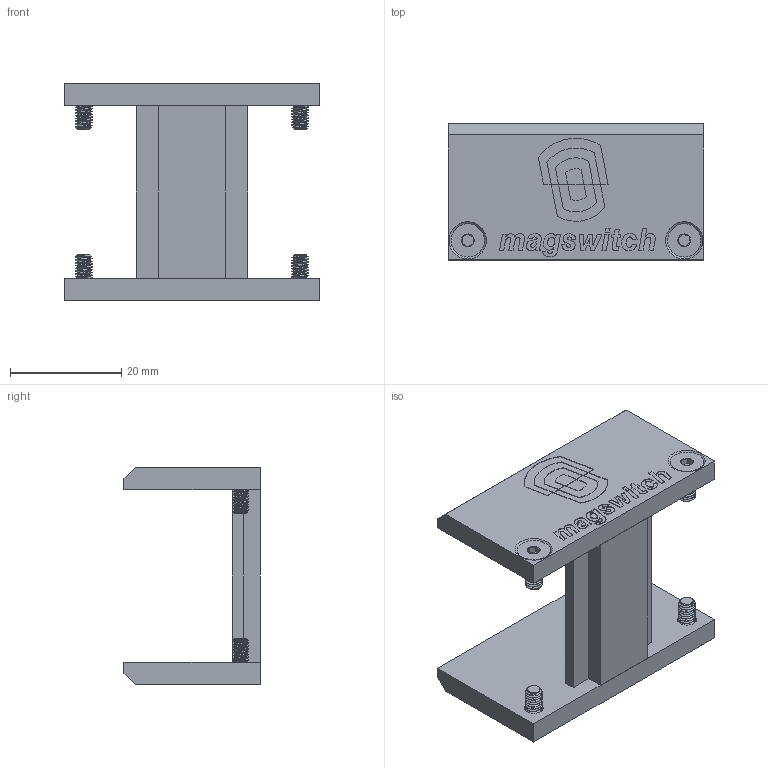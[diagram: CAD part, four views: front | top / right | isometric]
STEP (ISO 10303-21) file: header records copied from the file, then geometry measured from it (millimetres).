
FILE_DESCRIPTION (( 'STEP AP214' ), '1' );
FILE_NAME ('88001423_p.STEP', '2022-10-24T23:01:40', ( '' ), ( '' ), 'SwSTEP 2.0', 'SolidWorks 2018', '' );
FILE_SCHEMA (( 'AUTOMOTIVE_DESIGN' ));
Length unit declared in the file: millimetre
Products named in the file (2): 88001423_p
Bounding box: 46 x 24.5 x 39 mm (x, y, z)
Surface area: 7716.4 mm2 (no closed solid volume)
Topology: 0 solids, 11 shells, 552 faces, 1553 edges, 1020 vertices
Faces by surface type: plane 263, bspline 223, cone 36, cylinder 30
Full cylindrical faces by diameter (mm): 3.4 x4, 6 x4
Entity records: 30589 total; most frequent: CARTESIAN_POINT 12224, ORIENTED_EDGE 2888, DIRECTION 1735, EDGE_CURVE 1525, VERTEX_POINT 1012, LINE 897, VECTOR 897, EDGE_LOOP 608
